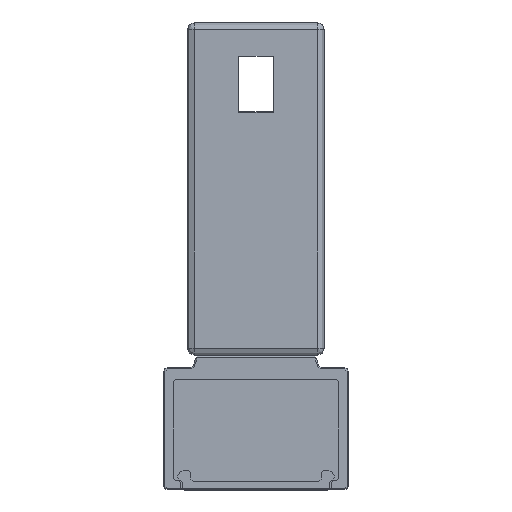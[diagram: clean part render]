
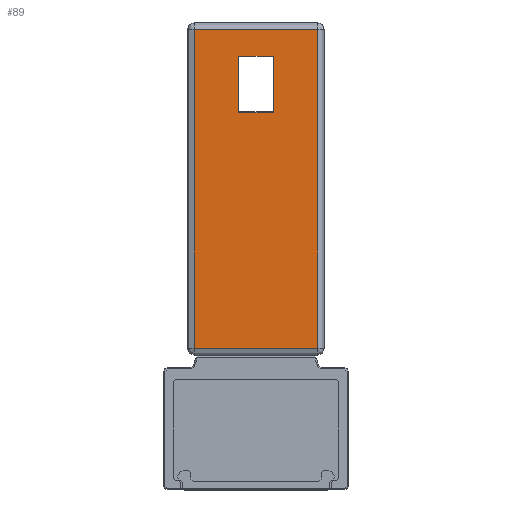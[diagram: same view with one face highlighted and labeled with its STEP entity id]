
A CAD part, front view. The second image highlights one B-rep face of the part: STEP entity #89.
In plain terms, the highlighted planar face has unit normal (0, -1, 0).
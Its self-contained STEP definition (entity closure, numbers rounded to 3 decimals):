
#84=FACE_BOUND('',#539,.T.);
#89=ADVANCED_FACE('',(#313,#84),#3388,.T.);
#313=FACE_OUTER_BOUND('',#538,.T.);
#538=EDGE_LOOP('',(#781,#782,#783,#784));
#539=EDGE_LOOP('',(#785,#786,#787,#788,#789,#790));
#781=ORIENTED_EDGE('',*,*,#1859,.T.);
#782=ORIENTED_EDGE('',*,*,#1860,.T.);
#783=ORIENTED_EDGE('',*,*,#1861,.T.);
#784=ORIENTED_EDGE('',*,*,#1862,.T.);
#785=ORIENTED_EDGE('',*,*,#1906,.T.);
#786=ORIENTED_EDGE('',*,*,#1895,.T.);
#787=ORIENTED_EDGE('',*,*,#1863,.T.);
#788=ORIENTED_EDGE('',*,*,#1900,.T.);
#789=ORIENTED_EDGE('',*,*,#1903,.T.);
#790=ORIENTED_EDGE('',*,*,#1864,.T.);
#1859=EDGE_CURVE('',#2945,#2946,#2738,.T.);
#1860=EDGE_CURVE('',#2946,#2947,#2739,.T.);
#1861=EDGE_CURVE('',#2947,#2948,#2740,.T.);
#1862=EDGE_CURVE('',#2948,#2945,#2741,.T.);
#1863=EDGE_CURVE('',#2950,#2951,#2742,.T.);
#1864=EDGE_CURVE('',#2953,#2954,#2743,.T.);
#1895=EDGE_CURVE('',#2949,#2950,#2750,.T.);
#1900=EDGE_CURVE('',#2951,#2952,#2755,.T.);
#1903=EDGE_CURVE('',#2952,#2953,#2758,.T.);
#1906=EDGE_CURVE('',#2954,#2949,#2761,.T.);
#2738=B_SPLINE_CURVE_WITH_KNOTS('',1,(#4078,#4079),.UNSPECIFIED.,.F.,.F.,
(2,2),(0.,46.586),.UNSPECIFIED.);
#2739=B_SPLINE_CURVE_WITH_KNOTS('',1,(#4080,#4081),.UNSPECIFIED.,.F.,.F.,
(2,2),(0.,18.012),.UNSPECIFIED.);
#2740=B_SPLINE_CURVE_WITH_KNOTS('',1,(#4082,#4083),.UNSPECIFIED.,.F.,.F.,
(2,2),(0.,46.586),.UNSPECIFIED.);
#2741=B_SPLINE_CURVE_WITH_KNOTS('',1,(#4084,#4085),.UNSPECIFIED.,.F.,.F.,
(2,2),(0.,18.012),.UNSPECIFIED.);
#2742=B_SPLINE_CURVE_WITH_KNOTS('',1,(#4086,#4087),.UNSPECIFIED.,.F.,.F.,
(2,2),(0.,8.2),.UNSPECIFIED.);
#2743=B_SPLINE_CURVE_WITH_KNOTS('',1,(#4088,#4089),.UNSPECIFIED.,.F.,.F.,
(2,2),(0.,8.2),.UNSPECIFIED.);
#2750=B_SPLINE_CURVE_WITH_KNOTS('',3,(#4176,#4177,#4178,#4179),
 .UNSPECIFIED.,.F.,.F.,(4,4),(-2.6,0.),.UNSPECIFIED.);
#2755=B_SPLINE_CURVE_WITH_KNOTS('',3,(#4190,#4191,#4192,#4193),
 .UNSPECIFIED.,.F.,.F.,(4,4),(-2.6,0.),.UNSPECIFIED.);
#2758=B_SPLINE_CURVE_WITH_KNOTS('',3,(#4200,#4201,#4202,#4203),
 .UNSPECIFIED.,.F.,.F.,(4,4),(-2.6,0.),.UNSPECIFIED.);
#2761=B_SPLINE_CURVE_WITH_KNOTS('',3,(#4210,#4211,#4212,#4213),
 .UNSPECIFIED.,.F.,.F.,(4,4),(-2.6,0.),.UNSPECIFIED.);
#2945=VERTEX_POINT('',#4028);
#2946=VERTEX_POINT('',#4029);
#2947=VERTEX_POINT('',#4030);
#2948=VERTEX_POINT('',#4031);
#2949=VERTEX_POINT('',#4032);
#2950=VERTEX_POINT('',#4033);
#2951=VERTEX_POINT('',#4034);
#2952=VERTEX_POINT('',#4035);
#2953=VERTEX_POINT('',#4036);
#2954=VERTEX_POINT('',#4037);
#3388=PLANE('',#3492);
#3492=AXIS2_PLACEMENT_3D('',#3866,#3679,$);
#3679=DIRECTION('',(0.,-1.,0.));
#3866=CARTESIAN_POINT('',(-11.423,-446.443,61.721));
#4028=CARTESIAN_POINT('',(9.,-446.443,9.866));
#4029=CARTESIAN_POINT('',(9.,-446.443,56.453));
#4030=CARTESIAN_POINT('',(-9.012,-446.443,56.453));
#4031=CARTESIAN_POINT('',(-9.012,-446.443,9.866));
#4032=CARTESIAN_POINT('',(-0.006,-446.443,52.536));
#4033=CARTESIAN_POINT('',(2.594,-446.443,52.49));
#4034=CARTESIAN_POINT('',(2.594,-446.443,44.29));
#4035=CARTESIAN_POINT('',(-0.006,-446.443,44.245));
#4036=CARTESIAN_POINT('',(-2.606,-446.443,44.29));
#4037=CARTESIAN_POINT('',(-2.606,-446.443,52.49));
#4078=CARTESIAN_POINT('',(9.,-446.443,9.866));
#4079=CARTESIAN_POINT('',(9.,-446.443,56.453));
#4080=CARTESIAN_POINT('',(9.,-446.443,56.453));
#4081=CARTESIAN_POINT('',(-9.012,-446.443,56.453));
#4082=CARTESIAN_POINT('',(-9.012,-446.443,56.453));
#4083=CARTESIAN_POINT('',(-9.012,-446.443,9.866));
#4084=CARTESIAN_POINT('',(-9.012,-446.443,9.866));
#4085=CARTESIAN_POINT('',(9.,-446.443,9.866));
#4086=CARTESIAN_POINT('',(2.594,-446.443,52.49));
#4087=CARTESIAN_POINT('',(2.594,-446.443,44.29));
#4088=CARTESIAN_POINT('',(-2.606,-446.443,44.29));
#4089=CARTESIAN_POINT('',(-2.606,-446.443,52.49));
#4176=CARTESIAN_POINT('',(-0.006,-446.443,52.536));
#4177=CARTESIAN_POINT('',(0.86,-446.443,52.521));
#4178=CARTESIAN_POINT('',(1.727,-446.443,52.506));
#4179=CARTESIAN_POINT('',(2.594,-446.443,52.49));
#4190=CARTESIAN_POINT('',(2.594,-446.443,44.29));
#4191=CARTESIAN_POINT('',(1.727,-446.443,44.275));
#4192=CARTESIAN_POINT('',(0.86,-446.443,44.26));
#4193=CARTESIAN_POINT('',(-0.006,-446.443,44.245));
#4200=CARTESIAN_POINT('',(-0.006,-446.443,44.245));
#4201=CARTESIAN_POINT('',(-0.873,-446.443,44.26));
#4202=CARTESIAN_POINT('',(-1.74,-446.443,44.275));
#4203=CARTESIAN_POINT('',(-2.606,-446.443,44.29));
#4210=CARTESIAN_POINT('',(-2.606,-446.443,52.49));
#4211=CARTESIAN_POINT('',(-1.74,-446.443,52.506));
#4212=CARTESIAN_POINT('',(-0.873,-446.443,52.521));
#4213=CARTESIAN_POINT('',(-0.006,-446.443,52.536));
